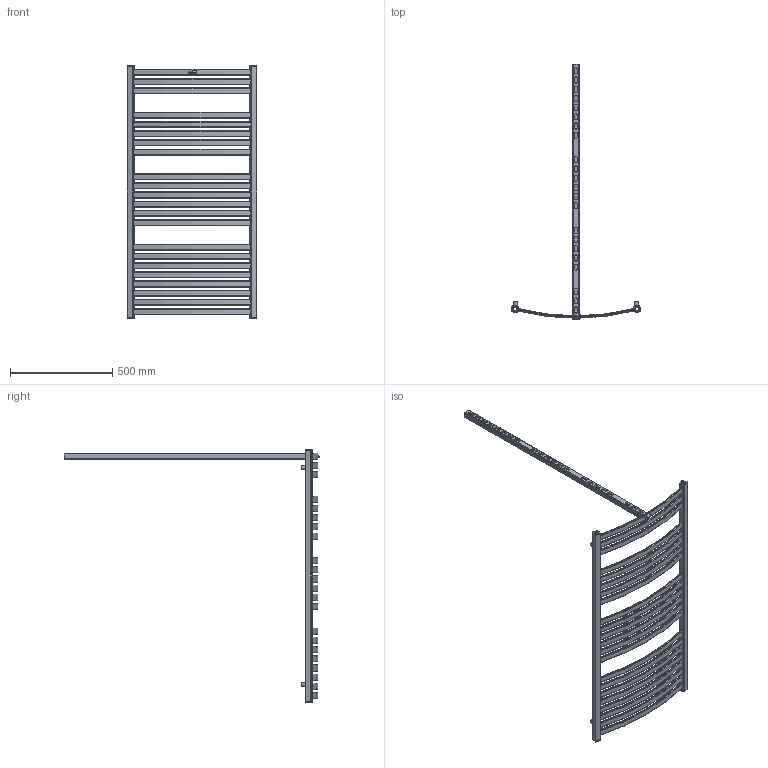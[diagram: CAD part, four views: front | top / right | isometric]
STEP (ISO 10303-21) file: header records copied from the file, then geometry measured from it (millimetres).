
FILE_DESCRIPTION( ( 'Unknown' ), '1' );
FILE_NAME( 'D:/Alplast sp. j/Witryna zespoBu - Projekty/Archiwum/Grzejniki Archiwum/Projekty/STANDARD/AK-EL/AK5-600EL.stp', 'Unknown', ( 'Unknown' ), ( 'Unknown' ), 'PSStep 10.1', 'Unknown', ' ' );
FILE_SCHEMA( ( 'AUTOMOTIVE_DESIGN { 1 0 10303 214 1 1 1 1 }' ) );
Length unit declared in the file: millimetre
Products named in the file (5): Assem1; zaslepka kwadrat otwor; tulejka kat 12stopni; kana³  poziomy lukowy L-600; AK5-EPEL
Bounding box: 635.8 x 1251 x 1240 mm (x, y, z)
Volume: 2015934.2 mm3; surface area: 2700200.4 mm2
Topology: 36 solids, 36 shells, 1136 faces, 3182 edges, 2128 vertices
Faces by surface type: plane 502, cylinder 440, torus 194
Full cylindrical faces by diameter (mm): 16 x5, 18 x5, 18.631 x5, 23 x5
Entity records: 10214 total; most frequent: DIRECTION 1486, CARTESIAN_POINT 1421, ORIENTED_EDGE 1372, EDGE_CURVE 686, AXIS2_PLACEMENT_3D 527, VERTEX_POINT 462, LINE 432, VECTOR 432
